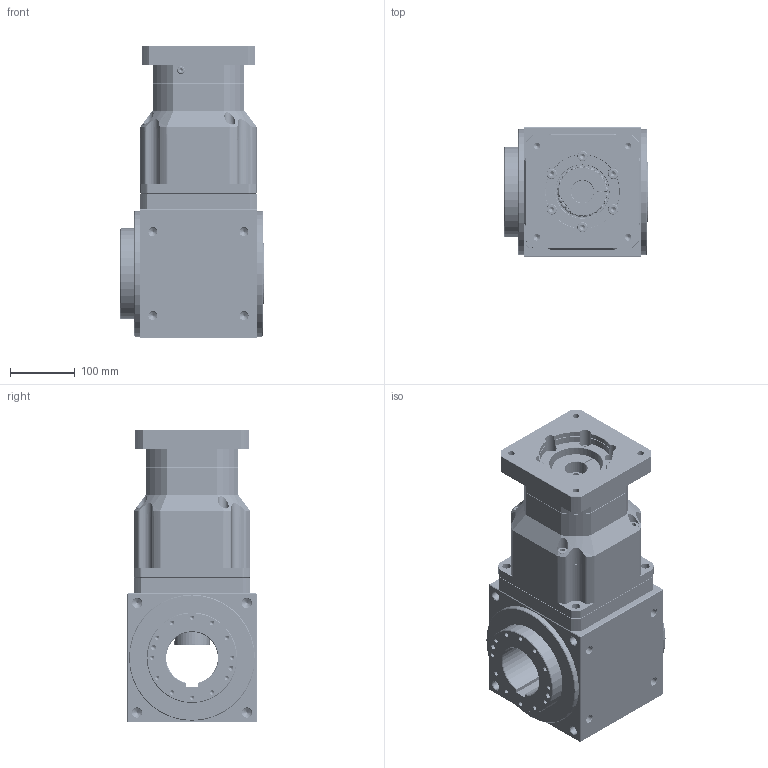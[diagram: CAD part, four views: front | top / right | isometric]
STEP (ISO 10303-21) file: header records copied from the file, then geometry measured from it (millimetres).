
FILE_DESCRIPTION (( 'STEP AP214' ), '1' );
FILE_NAME ('PAB-180-L2-S2-P2 35-114.STEP', '2020-12-01T01:35:58', ( '微软用户' ), ( '微软中国' ), 'SwSTEP 2.0', 'SolidWorks 2014', '' );
FILE_SCHEMA (( 'AUTOMOTIVE_DESIGN' ));
Length unit declared in the file: millimetre
Products named in the file (130): Spring lock washers--Normal type GB_GB_FASTENER_WASHER_SW 10; 俴陎殤5B-30; 俴陎謫菜え13.6X27; 薊粣ん菜え35; Circlips for shaft--Type A large GB_GB_CONNECTING_PIECE_RING_RRA 55; 俴陎謫菜え15.4X28; Deep groove ball bearings GB_Rolling bearings 61821 GB 276-94; 俴陎粣13.513; Hexagon socket head cap screws GB_GB_FASTENER_SCREWS_HSHCS M10X30-N; 怮栠謫8; 二级齿圈Z108; 媼撰笢潔楊擘; Hexagon socket countersunk head screws GB_GB_FASTENER_SCREWS_HSCHS M6X16-N; 薊粣ん35K12; 萇儂楊擘D114.3M12; Spring lock washers--Normal type GB_GB_FASTENER_WASHER_SW 8; Deep groove ball bearings GB_Rolling bearings 6011 GB 276-94; 幗渀粣創15.259X21.259; Plain parallel keys_GB_CONNECTING_PIECE_KEYS_CSK C8X22; Hex socket set screws with flat point GB_GB_FASTENER_SCREWS_HSFP M12X16-N; Hexagon socket head cap screws GB_GB_FASTENER_SCREWS_HSHCS M8X35-N; 粣創揤啣105; Hexagon socket head cap screws GB_GB_FASTENER_SCREWS_HSHCS M10X35-N; Circlips for hole--Type B GB_GB_CONNECTING_PIECE_RINGS_CHB 110; 俴陎謫8; 俴陎謫5B; Circlips for holes--Type A GB_GB_CONNECTING_PIECE_RING_RRH 130; Plain parallel keys_GB_CONNECTING_PIECE_KEYS_CSK C4X18; 怮栠謫5B; 俴陎粣15.259; 蚐猾75X130X12; Circlips for hole--Type B GB_GB_CONNECTING_PIECE_RINGS_CHB 80; Deep groove ball bearings GB_Rolling bearings 61826 GB 276-94; 幗渀粣創13.513X18.513; 怀堤粣5B; Deep groove ball bearings GB_Rolling bearings 6215 GB 276-94; 齿圈Z108; PAB-180-L2-S2-P2  35-114; 7777
Assembly tree (91 placements, depth 2):
  Spring lock washers--Normal type GB_GB_FASTENER_WASHER_SW 10
  俴陎謫菜え13.6X27
  Circlips for shaft--Type A large GB_GB_CONNECTING_PIECE_RING_RRA 55
  俴陎謫菜え15.4X28
  Spring lock washers--Normal type GB_GB_FASTENER_WASHER_SW 10
Bounding box: 223 x 200 x 453 mm (x, y, z)
Volume: 12917525.3 mm3; surface area: 1374415.9 mm2
Topology: 91 solids, 91 shells, 3176 faces, 10087 edges, 6321 vertices
Faces by surface type: cylinder 995, plane 785, bspline 766, cone 475, sphere 155
Entity records: 137625 total; most frequent: CARTESIAN_POINT 46773, ORIENTED_EDGE 14926, DIRECTION 11234, EDGE_CURVE 7463, VERTEX_POINT 4960, AXIS2_PLACEMENT_3D 4787, CIRCLE 2982, EDGE_LOOP 2693
